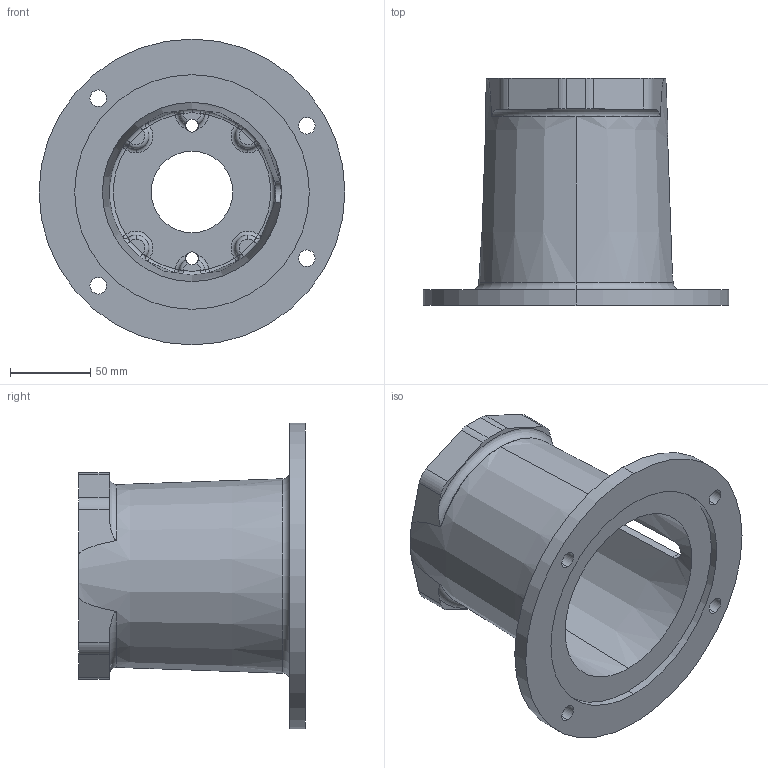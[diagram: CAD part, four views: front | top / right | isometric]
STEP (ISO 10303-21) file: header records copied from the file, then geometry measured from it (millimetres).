
FILE_DESCRIPTION (( 'STEP AP203' ), '1' );
FILE_NAME ('E575522AA.STEP', '2014-11-03T15:41:10', ( '' ), ( '' ), 'SwSTEP 2.0', 'SolidWorks 2014', '' );
FILE_SCHEMA (( 'CONFIG_CONTROL_DESIGN' ));
Length unit declared in the file: inch
Products named in the file (1): E575522AA
Bounding box: 190.5 x 141.22 x 190.5 mm (x, y, z)
Volume: 491222 mm3; surface area: 152121.6 mm2
Topology: 1 solids, 1 shells, 164 faces, 420 edges, 247 vertices
Faces by surface type: torus 51, cylinder 28, plane 25, sphere 24, bspline 24, cone 12
Entity records: 6689 total; most frequent: CARTESIAN_POINT 2728, DIRECTION 868, ORIENTED_EDGE 816, EDGE_CURVE 408, AXIS2_PLACEMENT_3D 403, CIRCLE 262, VERTEX_POINT 247, EDGE_LOOP 181
